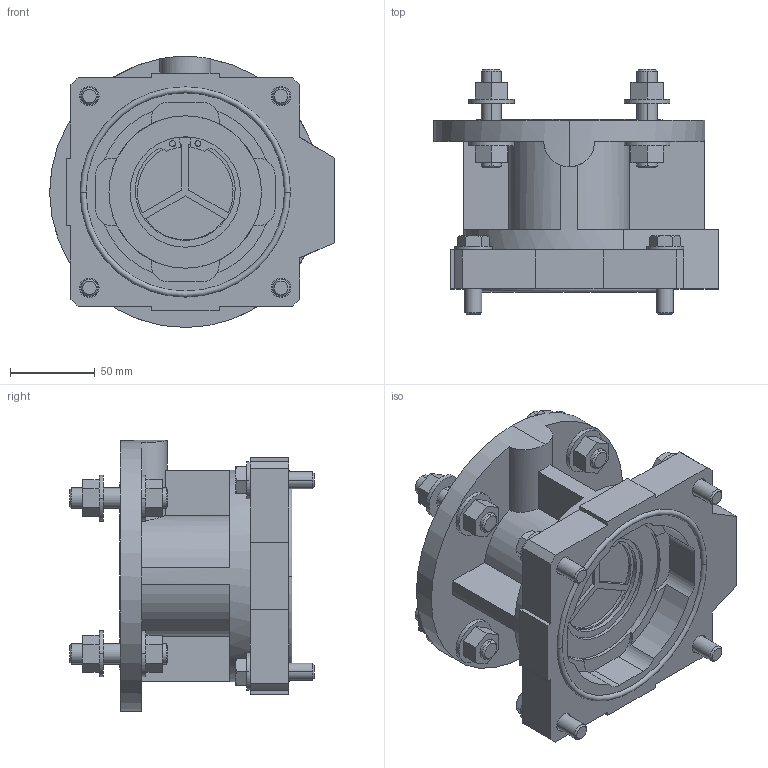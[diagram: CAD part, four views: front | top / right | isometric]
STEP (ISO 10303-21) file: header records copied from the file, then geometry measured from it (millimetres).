
FILE_DESCRIPTION((''),'2;1');
FILE_NAME('971463880_A0','2012-09-11T',('L2200169'),('Copyright by Leybold GmbH'),'PRO/ENGINEER BY PARAMETRIC TECHNOLOGY CORPORATION, 2010430','PRO/ENGINEER BY PARAMETRIC TECHNOLOGY CORPORATION, 2010430','');
FILE_SCHEMA(('AUTOMOTIVE_DESIGN { 1 0 10303 214 1 1 1 1 }'));
Length unit declared in the file: millimetre
Products named in the file (1): 971463880_A0
Bounding box: 168 x 144.5 x 160 mm (x, y, z)
Surface area: 179157.8 mm2 (no closed solid volume)
Topology: 0 solids, 39 shells, 337 faces, 909 edges, 626 vertices
Faces by surface type: plane 192, cylinder 93, cone 48, bspline 2, torus 2
Entity records: 11078 total; most frequent: CARTESIAN_POINT 2136, DIRECTION 1878, ORIENTED_EDGE 1637, EDGE_CURVE 909, AXIS2_PLACEMENT_3D 687, VERTEX_POINT 626, VECTOR 504, LINE 504
